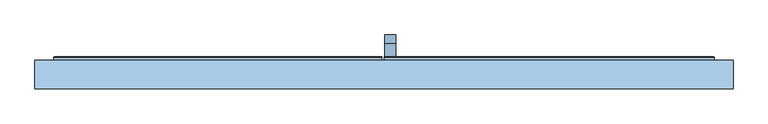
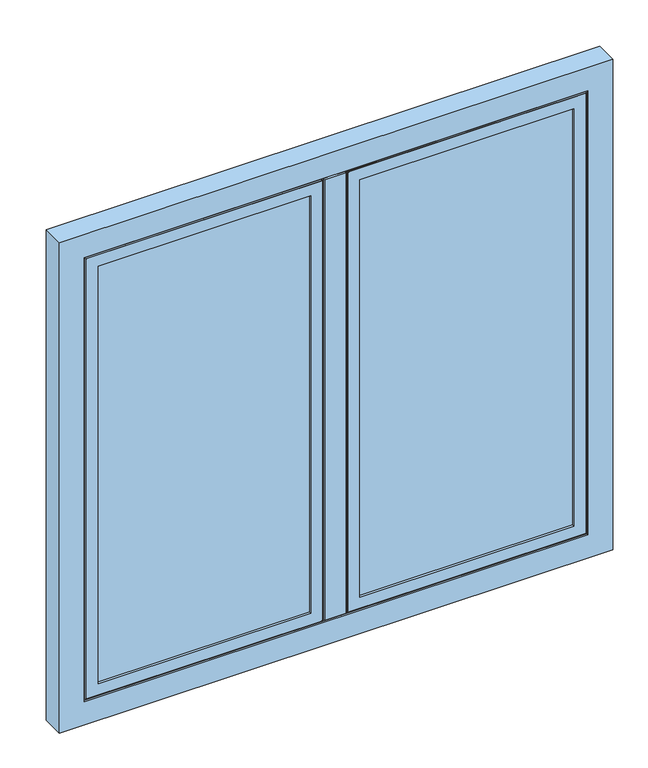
"""IFC4 building model written with IfcOpenShell, lengths in millimetres: window geometry, 900.04.005 : 900.04.005."""

from ifc_helpers import new_model, si_unit, frame, origin, place, context, project, spatial, polyline, circle_curve, ellipse_curve, outline, extrude, faceted_brep, source, transform, mapped, element, save
from ifc_brep_helpers import plane_surface, cylinder_surface, advanced_brep


def window_3340940a(model_context):
    return source(origin(), model_context, "Body", "SolidModel", [
        advanced_brep(
        [(1.400143, 32.9958929, 1410.0), (26.400143, 32.9958929, 1410.0), (1.400143, 62.9958929, 1410.0), (26.400143, 62.9958929, 1410.0), (1.400143, 82.9958929, 1410.0), (26.400143, 82.9958929, 1410.0), (26.400143, 82.9958929, 1210.0), (1.400143, 82.9958929, 1210.0), (1.400143, 62.9958929, 1210.0), (26.400143, 62.9958929, 1210.0)],
        [
            (0, 1, circle_curve(frame((13.900143, 32.9958929, 1410.0), z_axis=(0.0, -1.0, 0.0), x_axis=(1.0, 0.0, 0.0)), 12.5)),
            (1, 0, circle_curve(frame((13.900143, 32.9958929, 1410.0), z_axis=(0.0, -1.0, 0.0), x_axis=(1.0, 0.0, 0.0)), 12.5)),
            (0, 2),
            (2, 3, circle_curve(frame((13.900143, 62.9958929, 1410.0), z_axis=(0.0, -1.0, 0.0), x_axis=(1.0, 0.0, 0.0)), 12.5)),
            (3, 1),
            (3, 2, circle_curve(frame((13.900143, 62.9958929, 1410.0), z_axis=(0.0, -1.0, 0.0), x_axis=(1.0, 0.0, 0.0)), 12.5)),
            (4, 5, circle_curve(frame((13.900143, 82.9958929, 1410.0), z_axis=(0.0, 1.0, 0.0), x_axis=(1.0, 0.0, 0.0)), 12.5)),
            (5, 6),
            (6, 7, circle_curve(frame((13.900143, 82.9958929, 1210.0), z_axis=(0.0, 1.0, 0.0), x_axis=(1.0, 0.0, 0.0)), 12.5)),
            (7, 4),
            (2, 8),
            (8, 9, circle_curve(frame((13.900143, 62.9958929, 1210.0), z_axis=(0.0, -1.0, 0.0), x_axis=(1.0, 0.0, 0.0)), 12.5)),
            (9, 3),
            (7, 8),
            (2, 4),
            (6, 9),
            (5, 3),
        ],
        [
            plane_surface(frame((26.400143, 32.9958929, 1410.0), z_axis=(0.0, -1.0, 0.0), x_axis=(0.0, 0.0, -1.0))),
            cylinder_surface(frame((13.900143, 32.9958929, 1410.0), z_axis=(0.0, 1.0, 0.0), x_axis=(1.0, 0.0, 0.0)), 12.5),
            plane_surface(frame((1.400143, 82.9958929, 1410.0), z_axis=(0.0, 1.0, 0.0), x_axis=(0.0, 0.0, -1.0))),
            plane_surface(frame((1.400143, 62.9958929, 1410.0), z_axis=(0.0, -1.0, 0.0), x_axis=(0.0, 0.0, 1.0))),
            plane_surface(frame((1.400143, 82.9958929, 1410.0), z_axis=(-1.0, 0.0, 0.0), x_axis=(0.0, -1.0, 0.0))),
            cylinder_surface(frame((13.900143, 62.9958929, 1210.0), z_axis=(0.0, 1.0, 0.0), x_axis=(1.0, 0.0, 0.0)), 12.5),
            plane_surface(frame((26.400143, 82.9958929, 1210.0), z_axis=(1.0, 0.0, 0.0), x_axis=(0.0, -1.0, 0.0))),
            cylinder_surface(frame((13.900143, 62.9958929, 1410.0), z_axis=(0.0, 1.0, 0.0), x_axis=(1.0, 0.0, 0.0)), 12.5),
        ],
        [
            (0, [[1, 2]]),
            (1, [[3, 4, 5, -1]]),
            (1, [[-5, 6, -3, -2]]),
            (2, [[7, 8, 9, 10]]),
            (3, [[-4, 11, 12, 13]]),
            (4, [[14, -11, 15, -10]]),
            (5, [[16, -12, -14, -9]]),
            (6, [[17, -13, -16, -8]]),
            (7, [[-15, -6, -17, -7]]),
        ],
    ),
        extrude(outline(polyline([(702.9945696, 4.9964364), (702.9945696, -33.0034813), (53.5, -33.0034813), (53.5, 4.9964364), (702.9945696, 4.9964364)])), frame((0.0, 0.0, 907.0054304), z_axis=(0.0, 0.0, 1.0), x_axis=(1.0, 0.0, 0.0)), (0.0, 0.0, 1.0), 1305.9891393),
        advanced_brep(
        [(0.000193, 30.9980762, 2266.4943766), (0.000193, 30.9980762, 853.5056234), (0.000193, 25.0022411, 853.5056234), (0.000193, 25.0022411, 2266.4943766), (756.4943766, 25.0022411, 853.5056234), (756.4943766, 25.0022411, 2266.4943766), (17.5003025, 25.0022411, 871.0057329), (17.5003025, 25.0022411, 2248.9942671), (738.9942671, 25.0022411, 2248.9942671), (738.9942671, 25.0022411, 871.0057329), (756.4943766, 30.9980762, 853.5056234), (2.000193, 32.9980762, 2264.4943766), (2.000193, 32.9980762, 855.5056234), (17.5003025, -34.4972938, 871.0057329), (17.5003025, -34.4972938, 2248.9942671), (738.9942671, -34.4972938, 871.0057329), (738.9942671, -34.4972938, 2248.9942671), (32.9778909, -34.4972938, 886.4833213), (32.9778909, -34.4972938, 2233.5166787), (723.5166787, -34.4972938, 2233.5166787), (723.5166787, -34.4972938, 886.4833213), (32.9778909, -39.2009026, 886.4833213), (32.9778909, -39.2009026, 2233.5166787), (33.7778909, -40.0009026, 887.2833213), (33.7778909, -40.0009026, 2232.7166787), (723.5166787, -39.2009026, 886.4833213), (68.5003085, -40.0009026, 2197.9942611), (68.5003085, -40.0009026, 922.0057389), (68.5003085, -33.0034813, 922.0057389), (68.5003085, -33.0034813, 2197.9942611), (53.5000501, -33.0034813, 907.0054804), (53.5000501, -33.0034813, 2212.9945196), (702.9945196, -33.0034813, 2212.9945196), (702.9945196, -33.0034813, 907.0054804), (687.9942611, -33.0034813, 922.0057389), (687.9942611, -33.0034813, 2197.9942611), (687.9942611, -40.0009026, 922.0057389), (722.7166787, -40.0009026, 887.2833213), (722.7166787, -40.0009026, 2232.7166787), (687.9942611, -40.0009026, 2197.9942611), (53.5000501, 4.9964364, 907.0054804), (53.5000501, 4.9964364, 2212.9945196), (702.9945196, 4.9964364, 907.0054804), (702.9945196, 4.9964364, 2212.9945196), (68.5003085, 4.9964364, 922.0057389), (68.5003085, 4.9964364, 2197.9942611), (687.9942611, 4.9964364, 2197.9942611), (687.9942611, 4.9964364, 922.0057389), (68.5003085, 32.9980762, 922.0057389), (68.5003085, 32.9980762, 2197.9942611), (754.4943766, 32.9980762, 2264.4943766), (754.4943766, 32.9980762, 855.5056234), (687.9942611, 32.9980762, 922.0057389), (687.9942611, 32.9980762, 2197.9942611), (756.4943766, 30.9980762, 2266.4943766), (723.5166787, -39.2009026, 2233.5166787)],
        [
            (0, 1),
            (1, 2),
            (2, 3),
            (3, 0),
            (2, 4),
            (4, 5),
            (5, 3),
            (6, 7),
            (7, 8),
            (8, 9),
            (9, 6),
            (1, 10),
            (10, 4),
            (11, 12),
            (12, 1, ellipse_curve(frame((2.000193, 30.9980762, 855.5056234), z_axis=(-0.7071067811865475, 0.0, 0.7071067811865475), x_axis=(0.7071067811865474, 0.0, 0.7071067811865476)), 2.8284271, 2.0)),
            (0, 11, ellipse_curve(frame((2.000193, 30.9980762, 2264.4943766), z_axis=(-0.7071067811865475, 0.0, -0.7071067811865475), x_axis=(-0.7071067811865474, 0.0, 0.7071067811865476)), 2.8284271, 2.0)),
            (6, 13),
            (13, 14),
            (14, 7),
            (13, 15),
            (15, 16),
            (16, 14),
            (17, 18),
            (18, 19),
            (19, 20),
            (20, 17),
            (9, 15),
            (17, 21),
            (21, 22),
            (22, 18),
            (21, 23, ellipse_curve(frame((33.7778909, -39.2009026, 887.2833213), z_axis=(-0.7071067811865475, 0.0, 0.7071067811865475), x_axis=(0.7071067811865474, 0.0, 0.7071067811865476)), 1.1313708, 0.8)),
            (23, 24),
            (24, 22, ellipse_curve(frame((33.7778909, -39.2009026, 2232.7166787), z_axis=(-0.7071067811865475, 0.0, -0.7071067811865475), x_axis=(-0.7071067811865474, 0.0, 0.7071067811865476)), 1.1313708, 0.8)),
            (20, 25),
            (25, 21),
            (26, 27),
            (27, 28),
            (28, 29),
            (29, 26),
            (30, 31),
            (31, 32),
            (32, 33),
            (33, 30),
            (28, 34),
            (34, 35),
            (35, 29),
            (27, 36),
            (36, 34),
            (23, 37),
            (37, 38),
            (38, 24),
            (26, 39),
            (39, 36),
            (30, 40),
            (40, 41),
            (41, 31),
            (40, 42),
            (42, 43),
            (43, 41),
            (44, 45),
            (45, 46),
            (46, 47),
            (47, 44),
            (33, 42),
            (44, 48),
            (48, 49),
            (49, 45),
            (11, 50),
            (50, 51),
            (51, 12),
            (48, 52),
            (52, 53),
            (53, 49),
            (47, 52),
            (10, 54),
            (54, 5),
            (51, 10, ellipse_curve(frame((754.4943766, 30.9980762, 855.5056234), z_axis=(-0.7071067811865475, 0.0, -0.7071067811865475), x_axis=(-0.7071067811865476, 0.0, 0.7071067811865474)), 2.8284271, 2.0)),
            (8, 16),
            (25, 37, ellipse_curve(frame((722.7166787, -39.2009026, 887.2833213), z_axis=(-0.7071067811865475, 0.0, -0.7071067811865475), x_axis=(-0.7071067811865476, 0.0, 0.7071067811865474)), 1.1313708, 0.8)),
            (19, 55),
            (55, 25),
            (39, 35),
            (32, 43),
            (46, 53),
            (50, 54, ellipse_curve(frame((754.4943766, 30.9980762, 2264.4943766), z_axis=(0.7071067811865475, 0.0, -0.7071067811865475), x_axis=(-0.7071067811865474, 0.0, -0.7071067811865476)), 2.8284271, 2.0)),
            (55, 38, ellipse_curve(frame((722.7166787, -39.2009026, 2232.7166787), z_axis=(0.7071067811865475, 0.0, -0.7071067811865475), x_axis=(-0.7071067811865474, 0.0, -0.7071067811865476)), 1.1313708, 0.8)),
            (54, 0),
            (22, 55),
        ],
        [
            plane_surface(frame((0.000193, 25.0022411, 2266.4943766), z_axis=(-1.0, 0.0, 0.0), x_axis=(0.0, 0.0, -1.0))),
            plane_surface(frame((738.9942671, 25.0022411, 2248.9942671), z_axis=(0.0, -1.0, 0.0), x_axis=(-1.0, 0.0, 0.0))),
            plane_surface(frame((0.000193, 25.0022411, 853.5056234), z_axis=(0.0, 0.0, -1.0), x_axis=(1.0, 0.0, 0.0))),
            cylinder_surface(frame((2.000193, 30.9980762, 2310.0), z_axis=(0.0, 0.0, 1.0), x_axis=(-1.0, 0.0, 0.0)), 2.0),
            plane_surface(frame((17.5003025, -34.4972938, 2248.9942671), z_axis=(-1.0, 0.0, 0.0), x_axis=(0.0, 0.0, -1.0))),
            plane_surface(frame((723.5166787, -34.4972938, 2233.5166787), z_axis=(0.0, -1.0, 0.0), x_axis=(-1.0, 0.0, 0.0))),
            plane_surface(frame((17.5003025, -34.4972938, 871.0057329), z_axis=(0.0, 0.0, -1.0), x_axis=(1.0, 0.0, 0.0))),
            plane_surface(frame((32.9778909, -39.2009026, 2233.5166787), z_axis=(-1.0, 0.0, 0.0), x_axis=(0.0, 0.0, -1.0))),
            cylinder_surface(frame((33.7778909, -39.2009026, 2310.0), z_axis=(0.0, 0.0, 1.0), x_axis=(0.0, -1.0, 0.0)), 0.8),
            plane_surface(frame((32.9778909, -39.2009026, 886.4833213), z_axis=(0.0, 0.0, -1.0), x_axis=(1.0, 0.0, 0.0))),
            plane_surface(frame((68.5003085, -33.0034813, 2197.9942611), z_axis=(1.0, 0.0, 0.0), x_axis=(0.0, 0.0, -1.0))),
            plane_surface(frame((702.9945196, -33.0034813, 2212.9945196), z_axis=(0.0, 1.0, 0.0), x_axis=(-1.0, 0.0, 0.0))),
            plane_surface(frame((68.5003085, -33.0034813, 922.0057389), z_axis=(0.0, 0.0, 1.0), x_axis=(1.0, 0.0, 0.0))),
            plane_surface(frame((687.9942611, -40.0009026, 2197.9942611), z_axis=(0.0, -1.0, 0.0), x_axis=(-1.0, 0.0, 0.0))),
            plane_surface(frame((53.5000501, 4.9964364, 2212.9945196), z_axis=(1.0, 0.0, 0.0), x_axis=(0.0, 0.0, -1.0))),
            plane_surface(frame((687.9942611, 4.9964364, 2197.9942611), z_axis=(0.0, -1.0, 0.0), x_axis=(-1.0, 0.0, 0.0))),
            plane_surface(frame((53.5000501, 4.9964364, 907.0054804), z_axis=(0.0, 0.0, 1.0), x_axis=(1.0, 0.0, 0.0))),
            plane_surface(frame((68.5003085, 32.9980762, 2197.9942611), z_axis=(1.0, 0.0, 0.0), x_axis=(0.0, 0.0, -1.0))),
            plane_surface(frame((754.4943766, 32.9980762, 2264.4943766), z_axis=(0.0, 1.0, 0.0), x_axis=(-1.0, 0.0, 0.0))),
            plane_surface(frame((68.5003085, 32.9980762, 922.0057389), z_axis=(0.0, 0.0, 1.0), x_axis=(1.0, 0.0, 0.0))),
            plane_surface(frame((756.4943766, 25.0022411, 853.5056234), z_axis=(1.0, 0.0, 0.0), x_axis=(0.0, 0.0, 1.0))),
            cylinder_surface(frame((-43.5054304, 30.9980762, 855.5056234), z_axis=(-1.0, 0.0, 0.0), x_axis=(0.0, 0.0, -1.0)), 2.0),
            plane_surface(frame((738.9942671, -34.4972938, 871.0057329), z_axis=(1.0, 0.0, 0.0), x_axis=(0.0, 0.0, 1.0))),
            cylinder_surface(frame((-43.5054304, -39.2009026, 887.2833213), z_axis=(-1.0, 0.0, 0.0), x_axis=(0.0, -1.0, 0.0)), 0.8),
            plane_surface(frame((723.5166787, -39.2009026, 886.4833213), z_axis=(1.0, 0.0, 0.0), x_axis=(0.0, 0.0, 1.0))),
            plane_surface(frame((687.9942611, -33.0034813, 922.0057389), z_axis=(-1.0, 0.0, 0.0), x_axis=(0.0, 0.0, 1.0))),
            plane_surface(frame((702.9945196, 4.9964364, 907.0054804), z_axis=(-1.0, 0.0, 0.0), x_axis=(0.0, 0.0, 1.0))),
            plane_surface(frame((687.9942611, 32.9980762, 922.0057389), z_axis=(-1.0, 0.0, 0.0), x_axis=(0.0, 0.0, 1.0))),
            cylinder_surface(frame((754.4943766, 30.9980762, 810.0), z_axis=(0.0, 0.0, -1.0), x_axis=(1.0, 0.0, 0.0)), 2.0),
            cylinder_surface(frame((722.7166787, -39.2009026, 810.0), z_axis=(0.0, 0.0, -1.0), x_axis=(0.0, -1.0, 0.0)), 0.8),
            plane_surface(frame((756.4943766, 25.0022411, 2266.4943766), z_axis=(0.0, 0.0, 1.0), x_axis=(-1.0, 0.0, 0.0))),
            plane_surface(frame((738.9942671, -34.4972938, 2248.9942671), z_axis=(0.0, 0.0, 1.0), x_axis=(-1.0, 0.0, 0.0))),
            plane_surface(frame((723.5166787, -39.2009026, 2233.5166787), z_axis=(0.0, 0.0, 1.0), x_axis=(-1.0, 0.0, 0.0))),
            plane_surface(frame((687.9942611, -33.0034813, 2197.9942611), z_axis=(0.0, 0.0, -1.0), x_axis=(-1.0, 0.0, 0.0))),
            plane_surface(frame((702.9945196, 4.9964364, 2212.9945196), z_axis=(0.0, 0.0, -1.0), x_axis=(-1.0, 0.0, 0.0))),
            plane_surface(frame((687.9942611, 32.9980762, 2197.9942611), z_axis=(0.0, 0.0, -1.0), x_axis=(-1.0, 0.0, 0.0))),
            cylinder_surface(frame((800.0, 30.9980762, 2264.4943766), z_axis=(1.0, 0.0, 0.0), x_axis=(0.0, 0.0, 1.0)), 2.0),
            cylinder_surface(frame((800.0, -39.2009026, 2232.7166787), z_axis=(1.0, 0.0, 0.0), x_axis=(0.0, -1.0, 0.0)), 0.8),
        ],
        [
            (0, [[1, 2, 3, 4]]),
            (1, [[-3, 5, 6, 7], [8, 9, 10, 11]]),
            (2, [[12, 13, -5, -2]]),
            (3, [[14, 15, -1, 16]]),
            (4, [[-8, 17, 18, 19]]),
            (5, [[-18, 20, 21, 22], [23, 24, 25, 26]]),
            (6, [[-11, 27, -20, -17]]),
            (7, [[-23, 28, 29, 30]]),
            (8, [[-29, 31, 32, 33]]),
            (9, [[-26, 34, 35, -28]]),
            (10, [[36, 37, 38, 39]]),
            (11, [[40, 41, 42, 43], [-38, 44, 45, 46]]),
            (12, [[47, 48, -44, -37]]),
            (13, [[-32, 49, 50, 51], [-36, 52, 53, -47]]),
            (14, [[-40, 54, 55, 56]]),
            (15, [[-55, 57, 58, 59], [60, 61, 62, 63]]),
            (16, [[-43, 64, -57, -54]]),
            (17, [[-60, 65, 66, 67]]),
            (18, [[-14, 68, 69, 70], [-66, 71, 72, 73]]),
            (19, [[-63, 74, -71, -65]]),
            (20, [[75, 76, -6, -13]]),
            (21, [[-70, 77, -12, -15]]),
            (22, [[-10, 78, -21, -27]]),
            (23, [[-35, 79, -49, -31]]),
            (24, [[-25, 80, 81, -34]]),
            (25, [[-53, 82, -45, -48]]),
            (26, [[-42, 83, -58, -64]]),
            (27, [[-62, 84, -72, -74]]),
            (28, [[-69, 85, -75, -77]]),
            (29, [[-81, 86, -50, -79]]),
            (30, [[87, -4, -7, -76]]),
            (31, [[-9, -19, -22, -78]]),
            (32, [[-24, -30, 88, -80]]),
            (33, [[-52, -39, -46, -82]]),
            (34, [[-41, -56, -59, -83]]),
            (35, [[-61, -67, -73, -84]]),
            (36, [[-68, -16, -87, -85]]),
            (37, [[-88, -33, -51, -86]]),
        ],
    ),
        extrude(outline(polyline([(-22.4982197, 25.5079175), (6.0023691, 25.5079175), (6.0023691, -34.4900316), (27.9994894, -34.4900316), (27.9994894, -39.9935617), (-33.0005106, -39.9935617), (-33.0005106, -34.4900316), (-22.4983417, -34.4900316), (-22.4982197, 25.5079175)])), frame((0.0, 0.0, 886.5032713), z_axis=(0.0, 0.0, 1.0), x_axis=(1.0, 0.0, 0.0)), (0.0, 0.0, 1.0), 1346.9934575),
        extrude(outline(polyline([(-58.499807, 4.9941954), (-58.499807, -33.0057223), (-702.9945696, -33.0057223), (-702.9945696, 4.9941954), (-58.499807, 4.9941954)])), frame((0.0, 0.0, 907.0054304), z_axis=(0.0, 0.0, 1.0), x_axis=(1.0, 0.0, 0.0)), (0.0, 0.0, 1.0), 1305.9891393),
        advanced_brep(
        [(-5.0, 30.9958352, 853.5056234), (-5.0, 30.9958352, 2266.4943766), (-5.0, 25.0, 2266.4943766), (-5.0, 25.0, 853.5056234), (-756.4943766, 25.0, 2266.4943766), (-756.4943766, 25.0, 853.5056234), (-22.5001095, 25.0, 2248.9942671), (-22.5001095, 25.0, 871.0057329), (-738.9942671, 25.0, 871.0057329), (-738.9942671, 25.0, 2248.9942671), (-756.4943766, 30.9958352, 2266.4943766), (-7.0, 32.9958352, 855.5056234), (-7.0, 32.9958352, 2264.4943766), (-22.5001095, -34.4995349, 2248.9942671), (-22.5001095, -34.4995349, 871.0057329), (-738.9942671, -34.4995349, 2248.9942671), (-738.9942671, -34.4995349, 871.0057329), (-37.9776978, -34.4995349, 2233.5166787), (-37.9776978, -34.4995349, 886.4833213), (-723.5166787, -34.4995349, 886.4833213), (-723.5166787, -34.4995349, 2233.5166787), (-37.9776978, -39.2031436, 2233.5166787), (-37.9776978, -39.2031436, 886.4833213), (-38.7776978, -40.0031436, 2232.7166787), (-38.7776978, -40.0031436, 887.2833213), (-723.5166787, -39.2031436, 2233.5166787), (-73.5001155, -40.0031436, 922.0057389), (-73.5001155, -40.0031436, 2197.9942611), (-73.5001155, -33.0057223, 2197.9942611), (-73.5001155, -33.0057223, 922.0057389), (-58.499857, -33.0057223, 2212.9945196), (-58.499857, -33.0057223, 907.0054804), (-702.9945196, -33.0057223, 907.0054804), (-702.9945196, -33.0057223, 2212.9945196), (-687.9942611, -33.0057223, 2197.9942611), (-687.9942611, -33.0057223, 922.0057389), (-687.9942611, -40.0031436, 2197.9942611), (-722.7166787, -40.0031436, 2232.7166787), (-722.7166787, -40.0031436, 887.2833213), (-687.9942611, -40.0031436, 922.0057389), (-58.499857, 4.9941954, 2212.9945196), (-58.499857, 4.9941954, 907.0054804), (-702.9945196, 4.9941954, 2212.9945196), (-702.9945196, 4.9941954, 907.0054804), (-73.5001155, 4.9941954, 2197.9942611), (-73.5001155, 4.9941954, 922.0057389), (-687.9942611, 4.9941954, 922.0057389), (-687.9942611, 4.9941954, 2197.9942611), (-73.5001155, 32.9958352, 2197.9942611), (-73.5001155, 32.9958352, 922.0057389), (-754.4943766, 32.9958352, 855.5056234), (-754.4943766, 32.9958352, 2264.4943766), (-687.9942611, 32.9958352, 2197.9942611), (-687.9942611, 32.9958352, 922.0057389), (-756.4943766, 30.9958352, 853.5056234), (-723.5166787, -39.2031436, 886.4833213)],
        [
            (0, 1),
            (1, 2),
            (2, 3),
            (3, 0),
            (2, 4),
            (4, 5),
            (5, 3),
            (6, 7),
            (7, 8),
            (8, 9),
            (9, 6),
            (1, 10),
            (10, 4),
            (11, 12),
            (12, 1, ellipse_curve(frame((-7.0, 30.9958352, 2264.4943766), z_axis=(0.7071067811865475, 0.0, -0.7071067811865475), x_axis=(-0.7071067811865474, 0.0, -0.7071067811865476)), 2.8284271, 2.0)),
            (0, 11, ellipse_curve(frame((-7.0, 30.9958352, 855.5056234), z_axis=(0.7071067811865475, 0.0, 0.7071067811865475), x_axis=(0.7071067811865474, 0.0, -0.7071067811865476)), 2.8284271, 2.0)),
            (6, 13),
            (13, 14),
            (14, 7),
            (13, 15),
            (15, 16),
            (16, 14),
            (17, 18),
            (18, 19),
            (19, 20),
            (20, 17),
            (9, 15),
            (17, 21),
            (21, 22),
            (22, 18),
            (21, 23, ellipse_curve(frame((-38.7776978, -39.2031436, 2232.7166787), z_axis=(0.7071067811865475, 0.0, -0.7071067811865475), x_axis=(-0.7071067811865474, 0.0, -0.7071067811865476)), 1.1313708, 0.8)),
            (23, 24),
            (24, 22, ellipse_curve(frame((-38.7776978, -39.2031436, 887.2833213), z_axis=(0.7071067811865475, 0.0, 0.7071067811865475), x_axis=(0.7071067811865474, 0.0, -0.7071067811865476)), 1.1313708, 0.8)),
            (20, 25),
            (25, 21),
            (26, 27),
            (27, 28),
            (28, 29),
            (29, 26),
            (30, 31),
            (31, 32),
            (32, 33),
            (33, 30),
            (28, 34),
            (34, 35),
            (35, 29),
            (27, 36),
            (36, 34),
            (23, 37),
            (37, 38),
            (38, 24),
            (26, 39),
            (39, 36),
            (30, 40),
            (40, 41),
            (41, 31),
            (40, 42),
            (42, 43),
            (43, 41),
            (44, 45),
            (45, 46),
            (46, 47),
            (47, 44),
            (33, 42),
            (44, 48),
            (48, 49),
            (49, 45),
            (11, 50),
            (50, 51),
            (51, 12),
            (48, 52),
            (52, 53),
            (53, 49),
            (47, 52),
            (10, 54),
            (54, 5),
            (51, 10, ellipse_curve(frame((-754.4943766, 30.9958352, 2264.4943766), z_axis=(0.7071067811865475, 0.0, 0.7071067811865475), x_axis=(0.7071067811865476, 0.0, -0.7071067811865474)), 2.8284271, 2.0)),
            (8, 16),
            (25, 37, ellipse_curve(frame((-722.7166787, -39.2031436, 2232.7166787), z_axis=(0.7071067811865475, 0.0, 0.7071067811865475), x_axis=(0.7071067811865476, 0.0, -0.7071067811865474)), 1.1313708, 0.8)),
            (19, 55),
            (55, 25),
            (39, 35),
            (32, 43),
            (46, 53),
            (50, 54, ellipse_curve(frame((-754.4943766, 30.9958352, 855.5056234), z_axis=(-0.7071067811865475, 0.0, 0.7071067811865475), x_axis=(0.7071067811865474, 0.0, 0.7071067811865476)), 2.8284271, 2.0)),
            (55, 38, ellipse_curve(frame((-722.7166787, -39.2031436, 887.2833213), z_axis=(-0.7071067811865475, 0.0, 0.7071067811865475), x_axis=(0.7071067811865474, 0.0, 0.7071067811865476)), 1.1313708, 0.8)),
            (54, 0),
            (22, 55),
        ],
        [
            plane_surface(frame((-5.0, 25.0, 853.5056234), z_axis=(1.0, 0.0, 0.0), x_axis=(0.0, 0.0, 1.0))),
            plane_surface(frame((-738.9942671, 25.0, 871.0057329), z_axis=(0.0, -1.0, 0.0), x_axis=(1.0, 0.0, 0.0))),
            plane_surface(frame((-5.0, 25.0, 2266.4943766), z_axis=(0.0, 0.0, 1.0), x_axis=(-1.0, 0.0, 0.0))),
            cylinder_surface(frame((-7.0, 30.9958352, 810.0), z_axis=(0.0, 0.0, -1.0), x_axis=(1.0, 0.0, 0.0)), 2.0),
            plane_surface(frame((-22.5001095, -34.4995349, 871.0057329), z_axis=(1.0, 0.0, 0.0), x_axis=(0.0, 0.0, 1.0))),
            plane_surface(frame((-723.5166787, -34.4995349, 886.4833213), z_axis=(0.0, -1.0, 0.0), x_axis=(1.0, 0.0, 0.0))),
            plane_surface(frame((-22.5001095, -34.4995349, 2248.9942671), z_axis=(0.0, 0.0, 1.0), x_axis=(-1.0, 0.0, 0.0))),
            plane_surface(frame((-37.9776978, -39.2031436, 886.4833213), z_axis=(1.0, 0.0, 0.0), x_axis=(0.0, 0.0, 1.0))),
            cylinder_surface(frame((-38.7776978, -39.2031436, 810.0), z_axis=(0.0, 0.0, -1.0), x_axis=(0.0, -1.0, 0.0)), 0.8),
            plane_surface(frame((-37.9776978, -39.2031436, 2233.5166787), z_axis=(0.0, 0.0, 1.0), x_axis=(-1.0, 0.0, 0.0))),
            plane_surface(frame((-73.5001155, -33.0057223, 922.0057389), z_axis=(-1.0, 0.0, 0.0), x_axis=(0.0, 0.0, 1.0))),
            plane_surface(frame((-702.9945196, -33.0057223, 907.0054804), z_axis=(0.0, 1.0, 0.0), x_axis=(1.0, 0.0, 0.0))),
            plane_surface(frame((-73.5001155, -33.0057223, 2197.9942611), z_axis=(0.0, 0.0, -1.0), x_axis=(-1.0, 0.0, 0.0))),
            plane_surface(frame((-687.9942611, -40.0031436, 922.0057389), z_axis=(0.0, -1.0, 0.0), x_axis=(1.0, 0.0, 0.0))),
            plane_surface(frame((-58.499857, 4.9941954, 907.0054804), z_axis=(-1.0, 0.0, 0.0), x_axis=(0.0, 0.0, 1.0))),
            plane_surface(frame((-687.9942611, 4.9941954, 922.0057389), z_axis=(0.0, -1.0, 0.0), x_axis=(1.0, 0.0, 0.0))),
            plane_surface(frame((-58.499857, 4.9941954, 2212.9945196), z_axis=(0.0, 0.0, -1.0), x_axis=(-1.0, 0.0, 0.0))),
            plane_surface(frame((-73.5001155, 32.9958352, 922.0057389), z_axis=(-1.0, 0.0, 0.0), x_axis=(0.0, 0.0, 1.0))),
            plane_surface(frame((-754.4943766, 32.9958352, 855.5056234), z_axis=(0.0, 1.0, 0.0), x_axis=(1.0, 0.0, 0.0))),
            plane_surface(frame((-73.5001155, 32.9958352, 2197.9942611), z_axis=(0.0, 0.0, -1.0), x_axis=(-1.0, 0.0, 0.0))),
            plane_surface(frame((-756.4943766, 25.0, 2266.4943766), z_axis=(-1.0, 0.0, 0.0), x_axis=(0.0, 0.0, -1.0))),
            cylinder_surface(frame((38.5056234, 30.9958352, 2264.4943766), z_axis=(1.0, 0.0, 0.0), x_axis=(0.0, 0.0, 1.0)), 2.0),
            plane_surface(frame((-738.9942671, -34.4995349, 2248.9942671), z_axis=(-1.0, 0.0, 0.0), x_axis=(0.0, 0.0, -1.0))),
            cylinder_surface(frame((38.5056234, -39.2031436, 2232.7166787), z_axis=(1.0, 0.0, 0.0), x_axis=(0.0, -1.0, 0.0)), 0.8),
            plane_surface(frame((-723.5166787, -39.2031436, 2233.5166787), z_axis=(-1.0, 0.0, 0.0), x_axis=(0.0, 0.0, -1.0))),
            plane_surface(frame((-687.9942611, -33.0057223, 2197.9942611), z_axis=(1.0, 0.0, 0.0), x_axis=(0.0, 0.0, -1.0))),
            plane_surface(frame((-702.9945196, 4.9941954, 2212.9945196), z_axis=(1.0, 0.0, 0.0), x_axis=(0.0, 0.0, -1.0))),
            plane_surface(frame((-687.9942611, 32.9958352, 2197.9942611), z_axis=(1.0, 0.0, 0.0), x_axis=(0.0, 0.0, -1.0))),
            cylinder_surface(frame((-754.4943766, 30.9958352, 2310.0), z_axis=(0.0, 0.0, 1.0), x_axis=(-1.0, 0.0, 0.0)), 2.0),
            cylinder_surface(frame((-722.7166787, -39.2031436, 2310.0), z_axis=(0.0, 0.0, 1.0), x_axis=(0.0, -1.0, 0.0)), 0.8),
            plane_surface(frame((-756.4943766, 25.0, 853.5056234), z_axis=(0.0, 0.0, -1.0), x_axis=(1.0, 0.0, 0.0))),
            plane_surface(frame((-738.9942671, -34.4995349, 871.0057329), z_axis=(0.0, 0.0, -1.0), x_axis=(1.0, 0.0, 0.0))),
            plane_surface(frame((-723.5166787, -39.2031436, 886.4833213), z_axis=(0.0, 0.0, -1.0), x_axis=(1.0, 0.0, 0.0))),
            plane_surface(frame((-687.9942611, -33.0057223, 922.0057389), z_axis=(0.0, 0.0, 1.0), x_axis=(1.0, 0.0, 0.0))),
            plane_surface(frame((-702.9945196, 4.9941954, 907.0054804), z_axis=(0.0, 0.0, 1.0), x_axis=(1.0, 0.0, 0.0))),
            plane_surface(frame((-687.9942611, 32.9958352, 922.0057389), z_axis=(0.0, 0.0, 1.0), x_axis=(1.0, 0.0, 0.0))),
            cylinder_surface(frame((-800.0, 30.9958352, 855.5056234), z_axis=(-1.0, 0.0, 0.0), x_axis=(0.0, 0.0, -1.0)), 2.0),
            cylinder_surface(frame((-800.0, -39.2031436, 887.2833213), z_axis=(-1.0, 0.0, 0.0), x_axis=(0.0, -1.0, 0.0)), 0.8),
        ],
        [
            (0, [[1, 2, 3, 4]]),
            (1, [[-3, 5, 6, 7], [8, 9, 10, 11]]),
            (2, [[12, 13, -5, -2]]),
            (3, [[14, 15, -1, 16]]),
            (4, [[-8, 17, 18, 19]]),
            (5, [[-18, 20, 21, 22], [23, 24, 25, 26]]),
            (6, [[-11, 27, -20, -17]]),
            (7, [[-23, 28, 29, 30]]),
            (8, [[-29, 31, 32, 33]]),
            (9, [[-26, 34, 35, -28]]),
            (10, [[36, 37, 38, 39]]),
            (11, [[40, 41, 42, 43], [-38, 44, 45, 46]]),
            (12, [[47, 48, -44, -37]]),
            (13, [[-32, 49, 50, 51], [-36, 52, 53, -47]]),
            (14, [[-40, 54, 55, 56]]),
            (15, [[-55, 57, 58, 59], [60, 61, 62, 63]]),
            (16, [[-43, 64, -57, -54]]),
            (17, [[-60, 65, 66, 67]]),
            (18, [[-14, 68, 69, 70], [-66, 71, 72, 73]]),
            (19, [[-63, 74, -71, -65]]),
            (20, [[75, 76, -6, -13]]),
            (21, [[-70, 77, -12, -15]]),
            (22, [[-10, 78, -21, -27]]),
            (23, [[-35, 79, -49, -31]]),
            (24, [[-25, 80, 81, -34]]),
            (25, [[-53, 82, -45, -48]]),
            (26, [[-42, 83, -58, -64]]),
            (27, [[-62, 84, -72, -74]]),
            (28, [[-69, 85, -75, -77]]),
            (29, [[-81, 86, -50, -79]]),
            (30, [[87, -4, -7, -76]]),
            (31, [[-9, -19, -22, -78]]),
            (32, [[-24, -30, 88, -80]]),
            (33, [[-52, -39, -46, -82]]),
            (34, [[-41, -56, -59, -83]]),
            (35, [[-61, -67, -73, -84]]),
            (36, [[-68, -16, -87, -85]]),
            (37, [[-88, -33, -51, -86]]),
        ],
    ),
        faceted_brep([(-728.5000448, -40.0601119, 2238.5000448), (-728.5000448, -40.0601119, 881.4999552), (-728.5000448, -35.4974884, 881.4999552), (-728.5000448, -35.4974884, 2238.5000448), (-750.499939, -35.4974884, 859.500061), (-750.499939, -35.4974884, 2260.499939), (750.499939, -35.4974884, 2260.499939), (750.499939, -35.4974884, 859.500061), (728.5000448, -35.4974884, 881.4999552), (728.5000448, -35.4974884, 2238.5000448), (728.5000448, -40.0601119, 881.4999552), (-800.0, -40.0601119, 2310.0), (-800.0, -40.0601119, 810.0), (800.0, -40.0601119, 810.0), (800.0, -40.0601119, 2310.0), (728.5000448, -40.0601119, 2238.5000448), (-800.0, 25.0, 2310.0), (-800.0, 25.0, 810.0), (800.0, 25.0, 810.0), (800.0, 25.0, 2310.0), (-750.499939, 25.0, 2260.499939), (-750.499939, 25.0, 859.500061), (750.499939, 25.0, 859.500061), (750.499939, 25.0, 2260.499939)], [[[0, 1, 2, 3]], [[4, 5, 6, 7], [3, 2, 8, 9]], [[1, 10, 8, 2]], [[11, 12, 13, 14], [1, 0, 15, 10]], [[16, 17, 12, 11]], [[17, 18, 13, 12]], [[17, 16, 19, 18], [20, 21, 22, 23]], [[5, 4, 21, 20]], [[4, 7, 22, 21]], [[10, 15, 9, 8]], [[18, 19, 14, 13]], [[7, 6, 23, 22]], [[15, 0, 3, 9]], [[19, 16, 11, 14]], [[6, 5, 20, 23]]]),
    ])


if __name__ == "__main__":
    model = new_model("IFC4")
    model_context = context("Model", 3, world=origin())
    ifc_project = project(units=[si_unit("LENGTHUNIT", "METRE", prefix="MILLI")], contexts=[model_context])
    site = spatial("IfcSite", under=ifc_project)
    building = spatial("IfcBuilding", under=site)
    placement = place(None, origin())
    window_shape = window_3340940a(model_context)
    element("IfcWindow", 1, ObjectType="900.04.005 : 900.04.005", at=placement, inside=building, context=model_context, shape_type="MappedRepresentation", body=[
        mapped(window_shape, transform((0.0, 0.0, 0.0), x_axis=(1.0, 0.0, 0.0), y_axis=(0.0, 1.0, 0.0), z_axis=(0.0, 0.0, 1.0))),
    ])
    save(model, "model.ifc")
